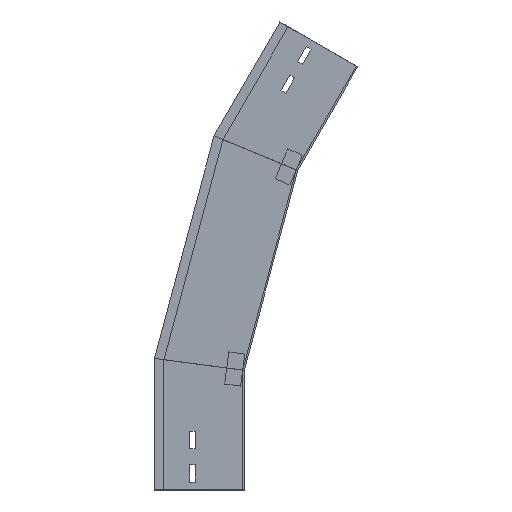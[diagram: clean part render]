
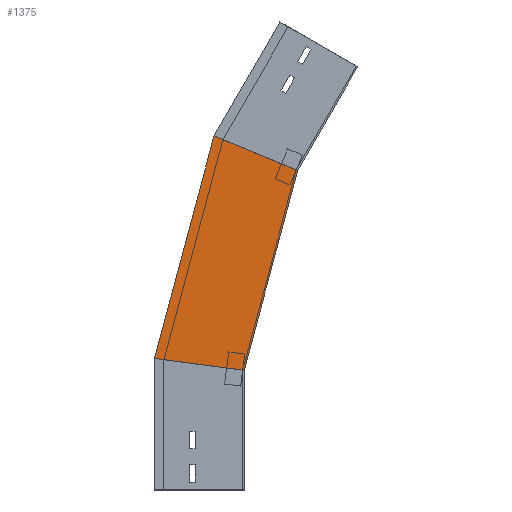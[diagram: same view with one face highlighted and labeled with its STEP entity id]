
A CAD part, left-side view. The second image highlights one B-rep face of the part: STEP entity #1375.
In plain terms, the highlighted planar face has unit normal (-1, 0, 0) as drawn and (1, 0, 0) by its records, which use the part's own axes.
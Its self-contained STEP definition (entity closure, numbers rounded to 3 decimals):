
#71 = VERTEX_POINT ( 'NONE', #200 ) ;
#145 = LINE ( 'NONE', #951, #726 ) ;
#200 = CARTESIAN_POINT ( 'NONE',  ( 0., 112.5, 164.811 ) ) ;
#234 = VERTEX_POINT ( 'NONE', #682 ) ;
#285 = CARTESIAN_POINT ( 'NONE',  ( 0., -19.411, 147.444 ) ) ;
#303 = EDGE_CURVE ( 'NONE', #1416, #877, #1040, .T. ) ;
#336 = ORIENTED_EDGE ( 'NONE', *, *, #782, .F. ) ;
#394 = DIRECTION ( 'NONE',  ( 1., 0., 0. ) ) ;
#424 = VECTOR ( 'NONE', #1160, 1000. ) ;
#505 = PLANE ( 'NONE',  #869 ) ;
#533 = CARTESIAN_POINT ( 'NONE',  ( 0., -67.034, 400.175 ) ) ;
#545 = LINE ( 'NONE', #1335, #1346 ) ;
#617 = EDGE_LOOP ( 'NONE', ( #1353, #655, #336, #1181 ) ) ;
#630 = VECTOR ( 'NONE', #742, 1000. ) ;
#633 = CARTESIAN_POINT ( 'NONE',  ( 0., 4.243, 134.167 ) ) ;
#655 = ORIENTED_EDGE ( 'NONE', *, *, #303, .T. ) ;
#682 = CARTESIAN_POINT ( 'NONE',  ( 0., 0., 150. ) ) ;
#726 = VECTOR ( 'NONE', #817, 1000. ) ;
#742 = DIRECTION ( 'NONE',  ( 0., -0.991, -0.131 ) ) ;
#782 = EDGE_CURVE ( 'NONE', #234, #877, #145, .T. ) ;
#817 = DIRECTION ( 'NONE',  ( 0., -0.259, 0.966 ) ) ;
#831 = EDGE_CURVE ( 'NONE', #71, #1416, #545, .T. ) ;
#852 = LINE ( 'NONE', #285, #630 ) ;
#869 = AXIS2_PLACEMENT_3D ( 'NONE', #633, #394, #1201 ) ;
#877 = VERTEX_POINT ( 'NONE', #533 ) ;
#951 = CARTESIAN_POINT ( 'NONE',  ( 0., 4.243, 134.167 ) ) ;
#1040 = LINE ( 'NONE', #1407, #424 ) ;
#1103 = CARTESIAN_POINT ( 'NONE',  ( 0., 37.799, 443.598 ) ) ;
#1160 = DIRECTION ( 'NONE',  ( 0., -0.924, -0.383 ) ) ;
#1181 = ORIENTED_EDGE ( 'NONE', *, *, #1358, .F. ) ;
#1201 = DIRECTION ( 'NONE',  ( 0., 0., -1. ) ) ;
#1216 = DIRECTION ( 'NONE',  ( 0., -0.259, 0.966 ) ) ;
#1294 = FACE_OUTER_BOUND ( 'NONE', #617, .T. ) ;
#1335 = CARTESIAN_POINT ( 'NONE',  ( 0., 112.909, 163.284 ) ) ;
#1346 = VECTOR ( 'NONE', #1216, 1000. ) ;
#1353 = ORIENTED_EDGE ( 'NONE', *, *, #831, .T. ) ;
#1358 = EDGE_CURVE ( 'NONE', #71, #234, #852, .T. ) ;
#1375 = ADVANCED_FACE ( 'NONE', ( #1294 ), #505, .T. ) ;
#1407 = CARTESIAN_POINT ( 'NONE',  ( 0., -100.244, 386.419 ) ) ;
#1416 = VERTEX_POINT ( 'NONE', #1103 ) ;
